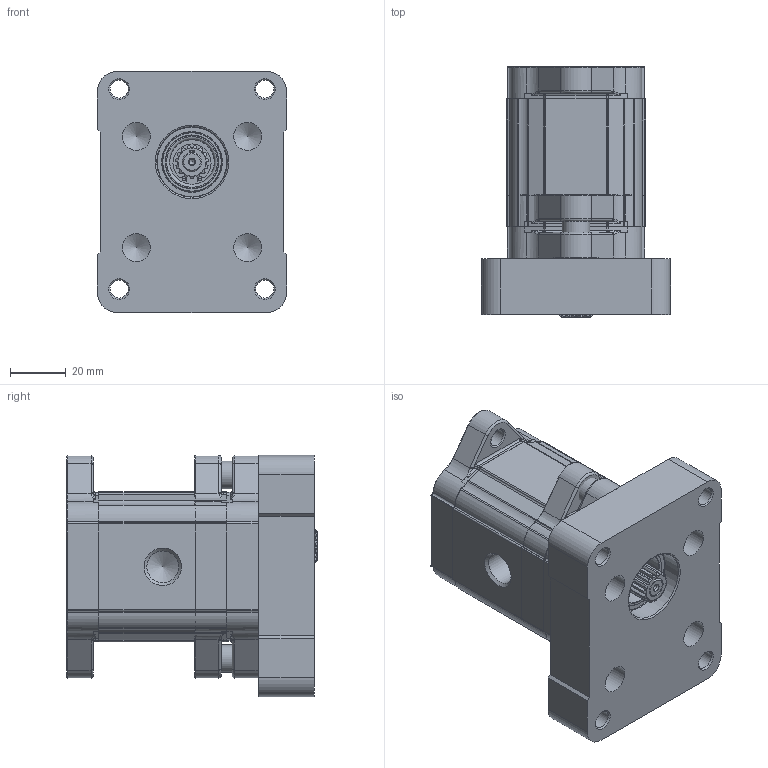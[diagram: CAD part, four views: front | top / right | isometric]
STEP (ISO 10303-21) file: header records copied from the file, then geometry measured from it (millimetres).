
FILE_DESCRIPTION( ( 'Unknown' ), '1' );
FILE_NAME( 'P:/montaggio_easy/output/STP/X0I1331ABBA.stp', 'Unknown', ( 'Unknown' ), ( 'Unknown' ), 'PSStep 14.0', 'Unknown', ' ' );
FILE_SCHEMA( ( 'AUTOMOTIVE_DESIGN { 1 0 10303 214 1 1 1 1 }' ) );
Length unit declared in the file: millimetre
Products named in the file (5): Assem1; X0I31; 0X; X0BBH46; XI003-A
Bounding box: 68 x 90 x 86.7 mm (x, y, z)
Volume: 532572 mm3; surface area: 112723.4 mm2
Topology: 8 solids, 16 shells, 1950 faces, 5172 edges, 3270 vertices
Faces by surface type: cylinder 704, plane 636, cone 230, torus 224, bspline 104, extrusion 36, sphere 16
Full cylindrical faces by diameter (mm): 1.053 x4, 2 x4, 3.233 x2, 5 x4, 6.107 x2, 6.5 x16, 7.16 x2, 7.5 x4, 7.9 x4, 7.92 x2, 8 x4, 9.318 x2, 10 x12, 10.445 x2, 10.5 x8, 11 x2, 11.445 x4, 14 x4, 16 x2, 16.2 x2, 16.8 x2, 19 x2, 21.4 x2, 22 x2, 25.4 x2
Entity records: 41421 total; most frequent: CARTESIAN_POINT 10081, DIRECTION 5000, ORIENTED_EDGE 4828, EDGE_CURVE 2414, AXIS2_PLACEMENT_3D 2003, VERTEX_POINT 1587, EDGE_LOOP 1163, FACE_OUTER_BOUND 1043
